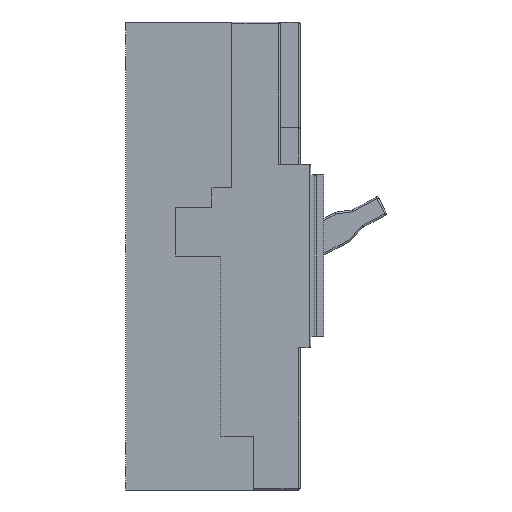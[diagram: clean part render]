
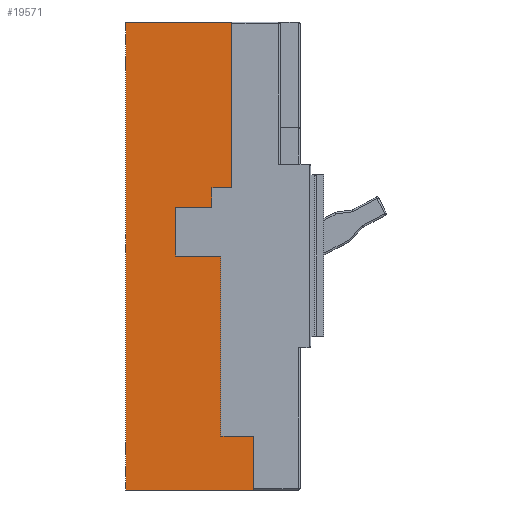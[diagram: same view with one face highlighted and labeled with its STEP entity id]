
A CAD part, left-side view. The second image highlights one B-rep face of the part: STEP entity #19571.
In plain terms, the highlighted planar face has unit normal (-1, 0, 0).
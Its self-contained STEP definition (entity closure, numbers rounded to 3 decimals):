
#6550=DIRECTION('',(0.,1.,0.));
#6551=VECTOR('',#6550,71.);
#6552=CARTESIAN_POINT('',(-70.2,-22.5,-130.));
#6553=LINE('',#6552,#6551);
#6554=DIRECTION('',(0.,0.,1.));
#6555=VECTOR('',#6554,260.);
#6556=CARTESIAN_POINT('',(-70.2,48.5,-130.));
#6557=LINE('',#6556,#6555);
#6558=DIRECTION('',(0.,-1.,0.));
#6559=VECTOR('',#6558,59.);
#6560=CARTESIAN_POINT('',(-70.2,48.5,130.));
#6561=LINE('',#6560,#6559);
#6562=DIRECTION('',(0.,0.,-1.));
#6563=VECTOR('',#6562,92.);
#6564=CARTESIAN_POINT('',(-70.2,-10.5,130.));
#6565=LINE('',#6564,#6563);
#6566=DIRECTION('',(0.,1.,0.));
#6567=VECTOR('',#6566,11.);
#6568=CARTESIAN_POINT('',(-70.2,-10.5,38.));
#6569=LINE('',#6568,#6567);
#6570=DIRECTION('',(0.,0.,-1.));
#6571=VECTOR('',#6570,11.);
#6572=CARTESIAN_POINT('',(-70.2,0.5,38.));
#6573=LINE('',#6572,#6571);
#6574=DIRECTION('',(0.,1.,0.));
#6575=VECTOR('',#6574,20.);
#6576=CARTESIAN_POINT('',(-70.2,0.5,27.));
#6577=LINE('',#6576,#6575);
#6578=DIRECTION('',(0.,0.,-1.));
#6579=VECTOR('',#6578,27.);
#6580=CARTESIAN_POINT('',(-70.2,20.5,27.));
#6581=LINE('',#6580,#6579);
#6582=DIRECTION('',(0.,-1.,0.));
#6583=VECTOR('',#6582,25.);
#6584=CARTESIAN_POINT('',(-70.2,20.5,0.));
#6585=LINE('',#6584,#6583);
#6586=DIRECTION('',(0.,0.,-1.));
#6587=VECTOR('',#6586,100.);
#6588=CARTESIAN_POINT('',(-70.2,-4.5,0.));
#6589=LINE('',#6588,#6587);
#6590=DIRECTION('',(0.,-1.,0.));
#6591=VECTOR('',#6590,18.);
#6592=CARTESIAN_POINT('',(-70.2,-4.5,-100.));
#6593=LINE('',#6592,#6591);
#6594=DIRECTION('',(0.,0.,-1.));
#6595=VECTOR('',#6594,30.);
#6596=CARTESIAN_POINT('',(-70.2,-22.5,-100.));
#6597=LINE('',#6596,#6595);
#9998=CARTESIAN_POINT('',(-70.2,-22.5,-130.));
#9999=CARTESIAN_POINT('',(-70.2,48.5,-130.));
#10000=VERTEX_POINT('',#9998);
#10001=VERTEX_POINT('',#9999);
#10002=CARTESIAN_POINT('',(-70.2,48.5,130.));
#10003=VERTEX_POINT('',#10002);
#10004=CARTESIAN_POINT('',(-70.2,-10.5,130.));
#10005=VERTEX_POINT('',#10004);
#10006=CARTESIAN_POINT('',(-70.2,-10.5,38.));
#10007=VERTEX_POINT('',#10006);
#10008=CARTESIAN_POINT('',(-70.2,0.5,38.));
#10009=VERTEX_POINT('',#10008);
#10010=CARTESIAN_POINT('',(-70.2,0.5,27.));
#10011=VERTEX_POINT('',#10010);
#10012=CARTESIAN_POINT('',(-70.2,20.5,27.));
#10013=VERTEX_POINT('',#10012);
#10014=CARTESIAN_POINT('',(-70.2,20.5,0.));
#10015=VERTEX_POINT('',#10014);
#10016=CARTESIAN_POINT('',(-70.2,-4.5,0.));
#10017=VERTEX_POINT('',#10016);
#10018=CARTESIAN_POINT('',(-70.2,-4.5,-100.));
#10019=VERTEX_POINT('',#10018);
#10020=CARTESIAN_POINT('',(-70.2,-22.5,-100.));
#10021=VERTEX_POINT('',#10020);
#19544=CARTESIAN_POINT('',(-70.2,0.,0.));
#19545=DIRECTION('',(1.,0.,0.));
#19546=DIRECTION('',(0.,0.,1.));
#19547=AXIS2_PLACEMENT_3D('',#19544,#19545,#19546);
#19548=PLANE('',#19547);
#19549=ORIENTED_EDGE('',*,*,#18056,.T.);
#19550=ORIENTED_EDGE('',*,*,#17285,.T.);
#19551=ORIENTED_EDGE('',*,*,#17004,.T.);
#19553=ORIENTED_EDGE('',*,*,#19552,.T.);
#19555=ORIENTED_EDGE('',*,*,#19554,.T.);
#19557=ORIENTED_EDGE('',*,*,#19556,.T.);
#19559=ORIENTED_EDGE('',*,*,#19558,.T.);
#19561=ORIENTED_EDGE('',*,*,#19560,.T.);
#19563=ORIENTED_EDGE('',*,*,#19562,.T.);
#19565=ORIENTED_EDGE('',*,*,#19564,.T.);
#19567=ORIENTED_EDGE('',*,*,#19566,.T.);
#19568=ORIENTED_EDGE('',*,*,#19537,.T.);
#19569=EDGE_LOOP('',(#19549,#19550,#19551,#19553,#19555,#19557,#19559,#19561,
#19563,#19565,#19567,#19568));
#19570=FACE_OUTER_BOUND('',#19569,.F.);
#17004=EDGE_CURVE('',#10003,#10005,#6561,.T.);
#17285=EDGE_CURVE('',#10001,#10003,#6557,.T.);
#18056=EDGE_CURVE('',#10000,#10001,#6553,.T.);
#19537=EDGE_CURVE('',#10021,#10000,#6597,.T.);
#19552=EDGE_CURVE('',#10005,#10007,#6565,.T.);
#19554=EDGE_CURVE('',#10007,#10009,#6569,.T.);
#19556=EDGE_CURVE('',#10009,#10011,#6573,.T.);
#19558=EDGE_CURVE('',#10011,#10013,#6577,.T.);
#19560=EDGE_CURVE('',#10013,#10015,#6581,.T.);
#19562=EDGE_CURVE('',#10015,#10017,#6585,.T.);
#19564=EDGE_CURVE('',#10017,#10019,#6589,.T.);
#19566=EDGE_CURVE('',#10019,#10021,#6593,.T.);
#19571=ADVANCED_FACE('',(#19570),#19548,.F.);
